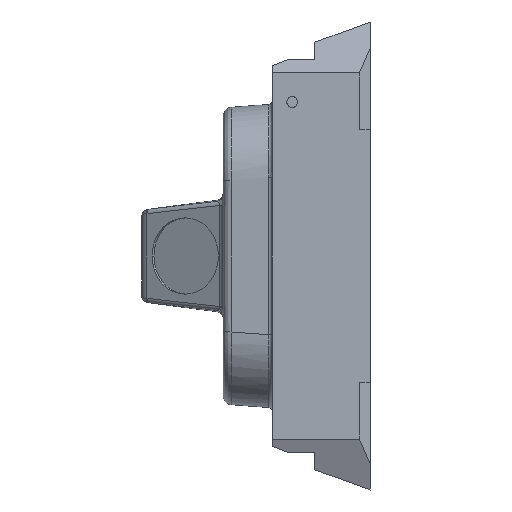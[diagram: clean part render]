
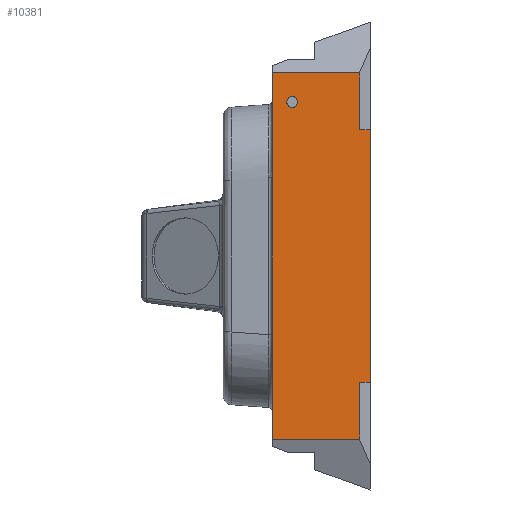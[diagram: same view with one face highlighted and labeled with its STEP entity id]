
A CAD part, left-side view. The second image highlights one B-rep face of the part: STEP entity #10381.
In plain terms, the highlighted planar face has unit normal (-1, 0, 0).
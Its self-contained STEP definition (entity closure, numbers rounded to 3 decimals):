
#27 = LINE ( 'NONE', #10327, #8869 ) ;
#122 = CARTESIAN_POINT ( 'NONE',  ( 0., 0., -2.3 ) ) ;
#125 = EDGE_CURVE ( 'NONE', #5790, #453, #4611, .T. ) ;
#189 = EDGE_CURVE ( 'NONE', #4632, #6550, #6806, .T. ) ;
#453 = VERTEX_POINT ( 'NONE', #7274 ) ;
#566 = CARTESIAN_POINT ( 'NONE',  ( 0., 0., -99. ) ) ;
#663 = ORIENTED_EDGE ( 'NONE', *, *, #3206, .T. ) ;
#689 = DIRECTION ( 'NONE',  ( -1., 0., 0. ) ) ;
#721 = EDGE_CURVE ( 'NONE', #3549, #765, #10045, .T. ) ;
#733 = DIRECTION ( 'NONE',  ( 0., 0., 1. ) ) ;
#741 = CARTESIAN_POINT ( 'NONE',  ( 0., 21.5, -22. ) ) ;
#765 = VERTEX_POINT ( 'NONE', #5295 ) ;
#850 = ORIENTED_EDGE ( 'NONE', *, *, #4812, .F. ) ;
#891 = EDGE_CURVE ( 'NONE', #453, #5790, #10313, .T. ) ;
#1267 = VERTEX_POINT ( 'NONE', #7828 ) ;
#1341 = DIRECTION ( 'NONE',  ( -1., 0., 0. ) ) ;
#1555 = ORIENTED_EDGE ( 'NONE', *, *, #891, .F. ) ;
#1565 = DIRECTION ( 'NONE',  ( 0., 0., -1. ) ) ;
#1594 = ORIENTED_EDGE ( 'NONE', *, *, #4832, .F. ) ;
#1607 = CARTESIAN_POINT ( 'NONE',  ( 0., 21.5, -23.5 ) ) ;
#1608 = CARTESIAN_POINT ( 'NONE',  ( 0., 27., -9.827 ) ) ;
#1739 = EDGE_CURVE ( 'NONE', #765, #1267, #9535, .T. ) ;
#1988 = CARTESIAN_POINT ( 'NONE',  ( 0., 0., -29.6 ) ) ;
#2311 = VERTEX_POINT ( 'NONE', #3630 ) ;
#2444 = DIRECTION ( 'NONE',  ( 0., 0., -1. ) ) ;
#2509 = CARTESIAN_POINT ( 'NONE',  ( 0., 58.5, -114.6 ) ) ;
#2876 = CARTESIAN_POINT ( 'NONE',  ( 0., 27., -114.6 ) ) ;
#3206 = EDGE_CURVE ( 'NONE', #6550, #2311, #4850, .T. ) ;
#3323 = CARTESIAN_POINT ( 'NONE',  ( 0., 0., 0. ) ) ;
#3549 = VERTEX_POINT ( 'NONE', #566 ) ;
#3550 = DIRECTION ( 'NONE',  ( 0., 0., 1. ) ) ;
#3598 = AXIS2_PLACEMENT_3D ( 'NONE', #3760, #1341, #3550 ) ;
#3630 = CARTESIAN_POINT ( 'NONE',  ( 0., 3., -14. ) ) ;
#3760 = CARTESIAN_POINT ( 'NONE',  ( 0., 21.5, -22. ) ) ;
#3800 = CARTESIAN_POINT ( 'NONE',  ( 0., 27., -14. ) ) ;
#4033 = CARTESIAN_POINT ( 'NONE',  ( 0., 3., -29.6 ) ) ;
#4069 = VECTOR ( 'NONE', #5828, 1000. ) ;
#4111 = FACE_OUTER_BOUND ( 'NONE', #7967, .T. ) ;
#4114 = AXIS2_PLACEMENT_3D ( 'NONE', #3323, #9612, #733 ) ;
#4463 = EDGE_LOOP ( 'NONE', ( #1555, #9084 ) ) ;
#4569 = VECTOR ( 'NONE', #2444, 1000. ) ;
#4611 = CIRCLE ( 'NONE', #3598, 1.5 ) ;
#4632 = VERTEX_POINT ( 'NONE', #1988 ) ;
#4748 = FACE_BOUND ( 'NONE', #4463, .T. ) ;
#4812 = EDGE_CURVE ( 'NONE', #7174, #2311, #27, .T. ) ;
#4832 = EDGE_CURVE ( 'NONE', #5723, #7174, #8803, .T. ) ;
#4850 = LINE ( 'NONE', #7939, #6032 ) ;
#4974 = VECTOR ( 'NONE', #7786, 1000. ) ;
#5295 = CARTESIAN_POINT ( 'NONE',  ( 0., 3., -99. ) ) ;
#5569 = ORIENTED_EDGE ( 'NONE', *, *, #6908, .F. ) ;
#5723 = VERTEX_POINT ( 'NONE', #2876 ) ;
#5790 = VERTEX_POINT ( 'NONE', #1607 ) ;
#5828 = DIRECTION ( 'NONE',  ( 0., -1., 0. ) ) ;
#5850 = EDGE_CURVE ( 'NONE', #5723, #1267, #9634, .T. ) ;
#5926 = DIRECTION ( 'NONE',  ( 0., 1., 0. ) ) ;
#6032 = VECTOR ( 'NONE', #9610, 1000. ) ;
#6101 = ORIENTED_EDGE ( 'NONE', *, *, #721, .F. ) ;
#6445 = DIRECTION ( 'NONE',  ( 0., -1., 0. ) ) ;
#6550 = VERTEX_POINT ( 'NONE', #4033 ) ;
#6797 = CARTESIAN_POINT ( 'NONE',  ( 0., 0., -99. ) ) ;
#6806 = LINE ( 'NONE', #9905, #10306 ) ;
#6854 = VECTOR ( 'NONE', #9802, 1000. ) ;
#6908 = EDGE_CURVE ( 'NONE', #4632, #3549, #8225, .T. ) ;
#7128 = AXIS2_PLACEMENT_3D ( 'NONE', #741, #689, #7995 ) ;
#7174 = VERTEX_POINT ( 'NONE', #3800 ) ;
#7180 = CARTESIAN_POINT ( 'NONE',  ( 0., 3., -99. ) ) ;
#7274 = CARTESIAN_POINT ( 'NONE',  ( 0., 21.5, -20.5 ) ) ;
#7786 = DIRECTION ( 'NONE',  ( 0., 1., 0. ) ) ;
#7828 = CARTESIAN_POINT ( 'NONE',  ( 0., 3., -114.6 ) ) ;
#7921 = ORIENTED_EDGE ( 'NONE', *, *, #189, .T. ) ;
#7939 = CARTESIAN_POINT ( 'NONE',  ( 0., 3., -29.6 ) ) ;
#7941 = PLANE ( 'NONE',  #4114 ) ;
#7967 = EDGE_LOOP ( 'NONE', ( #8717, #6101, #5569, #7921, #663, #850, #1594, #8447 ) ) ;
#7995 = DIRECTION ( 'NONE',  ( 0., 0., 1. ) ) ;
#8225 = LINE ( 'NONE', #122, #4569 ) ;
#8447 = ORIENTED_EDGE ( 'NONE', *, *, #5850, .T. ) ;
#8717 = ORIENTED_EDGE ( 'NONE', *, *, #1739, .F. ) ;
#8803 = LINE ( 'NONE', #1608, #6854 ) ;
#8869 = VECTOR ( 'NONE', #6445, 1000. ) ;
#9084 = ORIENTED_EDGE ( 'NONE', *, *, #125, .F. ) ;
#9535 = LINE ( 'NONE', #7180, #9778 ) ;
#9610 = DIRECTION ( 'NONE',  ( 0., 0., 1. ) ) ;
#9612 = DIRECTION ( 'NONE',  ( -1., 0., 0. ) ) ;
#9634 = LINE ( 'NONE', #2509, #4069 ) ;
#9778 = VECTOR ( 'NONE', #1565, 1000. ) ;
#9802 = DIRECTION ( 'NONE',  ( 0., 0., 1. ) ) ;
#9905 = CARTESIAN_POINT ( 'NONE',  ( 0., 0., -29.6 ) ) ;
#10045 = LINE ( 'NONE', #6797, #4974 ) ;
#10306 = VECTOR ( 'NONE', #5926, 1000. ) ;
#10313 = CIRCLE ( 'NONE', #7128, 1.5 ) ;
#10327 = CARTESIAN_POINT ( 'NONE',  ( 0., 58.5, -14. ) ) ;
#10381 = ADVANCED_FACE ( 'NONE', ( #4111, #4748 ), #7941, .T. ) ;
